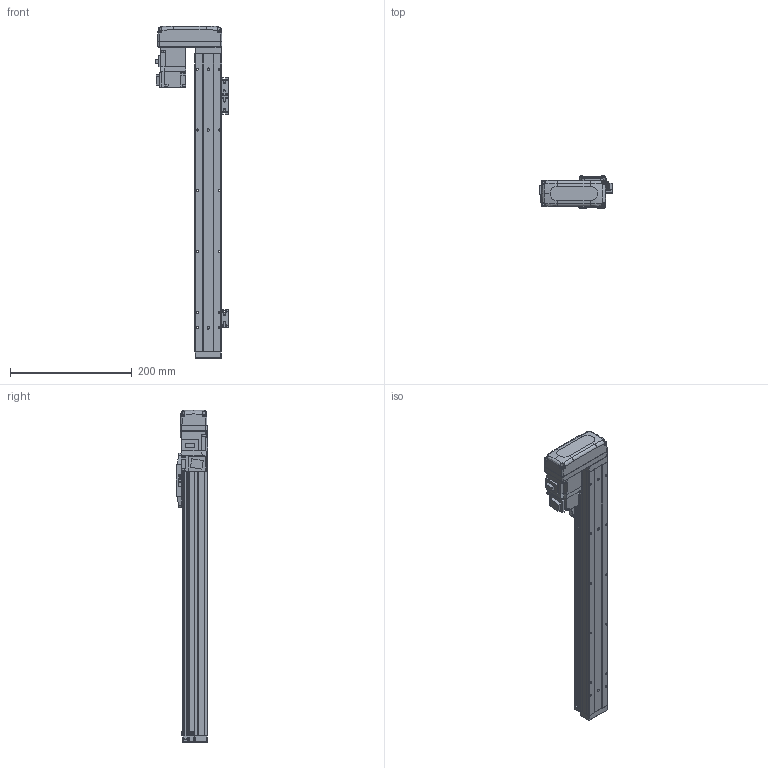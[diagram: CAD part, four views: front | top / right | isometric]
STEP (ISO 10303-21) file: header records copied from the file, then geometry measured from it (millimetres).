
FILE_DESCRIPTION (( 'STEP AP203' ), '1' );
FILE_NAME ('BTH40-350-BR-M05-C4.step', '2021-12-16T00:21:24', ( '微软用户' ), ( '微软中国' ), 'SwSTEP 2.0', 'SolidWorks 2020', '' );
FILE_SCHEMA (( 'CONFIG_CONTROL_DESIGN' ));
Length unit declared in the file: millimetre
Products named in the file (19): BTH40-006; GBT96.1-2002 3×0.8; BTH40-027-1; BTH-M3X5X6; BTH40-022; BTH50-026; GBT70.1-2000 M3×16; GBT 70.1-M2.5×6; BTH40-350-BR-M05-C4; BTH50-028; BTH40-001-50_BTH40-001-350; BTH40-004; BTH50-023; BTH40-003; BTH40-013; BTH50-024; HG-KR13; GBT 70.1-M3℅6; GBT 70.3-M3℅6
Assembly tree (47 placements, depth 2):
  BTH40-350-BR-M05-C4
    BTH40-001-50_BTH40-001-350
    BTH40-003
    BTH40-006
    BTH-M3X5X6  x8
    GBT70.1-2000 M3×16  x4
    BTH50-028  x2
    BTH50-023  x3
    BTH50-024  x3
    GBT 70.1-M3℅6  x6
    GBT96.1-2002 3×0.8  x6
    BTH40-022
    GBT 70.1-M2.5×6  x2
    BTH40-004
    BTH40-013
    HG-KR13
    GBT 70.3-M3℅6  x4
    BTH40-027-1
    BTH50-026
Bounding box: 120 x 52 x 546 mm (x, y, z)
Volume: 1056862.5 mm3; surface area: 196739 mm2
Topology: 49 solids, 49 shells, 1979 faces, 4647 edges, 2858 vertices
Faces by surface type: plane 1052, cylinder 491, cone 270, torus 128, bspline 34, sphere 4
Entity records: 39543 total; most frequent: CARTESIAN_POINT 7570, DIRECTION 6196, ORIENTED_EDGE 5940, EDGE_CURVE 2970, AXIS2_PLACEMENT_3D 2119, LINE 1958, VECTOR 1958, VERTEX_POINT 1845
